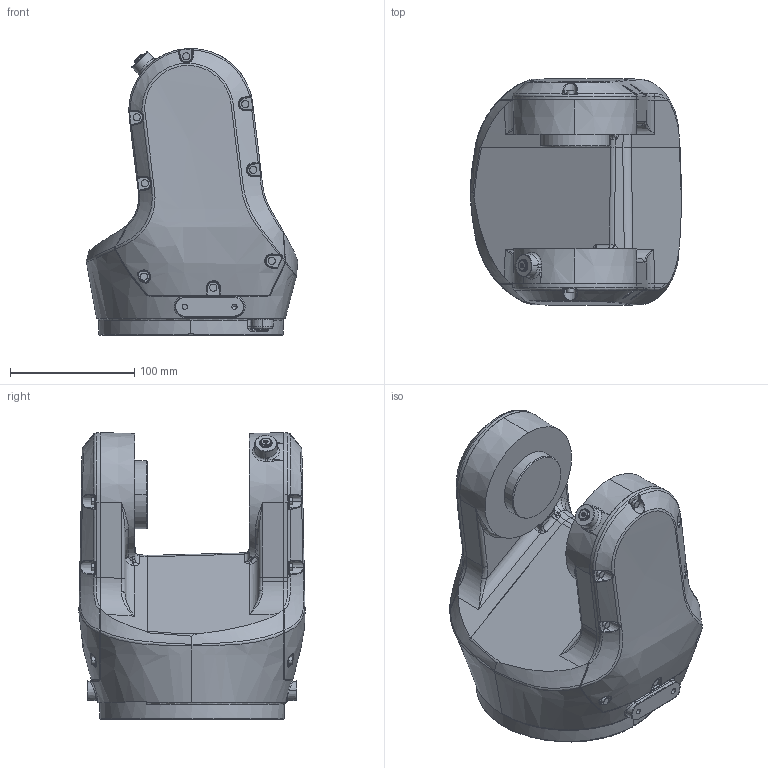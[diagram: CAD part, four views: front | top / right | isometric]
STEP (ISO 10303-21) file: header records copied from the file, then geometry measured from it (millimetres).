
FILE_DESCRIPTION (( 'STEP AP203' ), '1' );
FILE_NAME ('IRB1100_4kg-580-STD_OmniCore_rev04_Link01_CAD.STEP', '2023-07-10T07:20:22', ( '' ), ( '' ), 'SwSTEP 2.0', 'SolidWorks 2020', '' );
FILE_SCHEMA (( 'CONFIG_CONTROL_DESIGN' ));
Length unit declared in the file: millimetre
Products named in the file (1): IRB1100_4kg-580-STD_OmniCore_rev04_Link01_CAD
Bounding box: 170.26 x 182.27 x 231.03 mm (x, y, z)
Volume: 3170442.4 mm3; surface area: 174742.9 mm2
Topology: 1 solids, 1 shells, 749 faces, 1880 edges, 1148 vertices
Faces by surface type: bspline 340, cylinder 142, plane 136, cone 66, torus 61, sphere 4
Entity records: 50882 total; most frequent: CARTESIAN_POINT 36210, ORIENTED_EDGE 3734, DIRECTION 2061, EDGE_CURVE 1867, VERTEX_POINT 1148, B_SPLINE_CURVE_WITH_KNOTS 1023, AXIS2_PLACEMENT_3D 852, EDGE_LOOP 777
